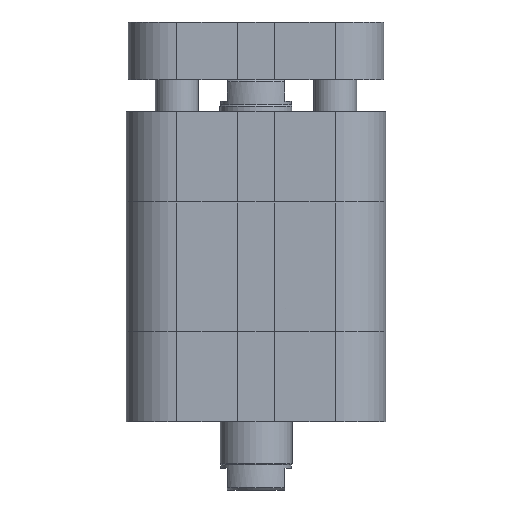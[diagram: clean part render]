
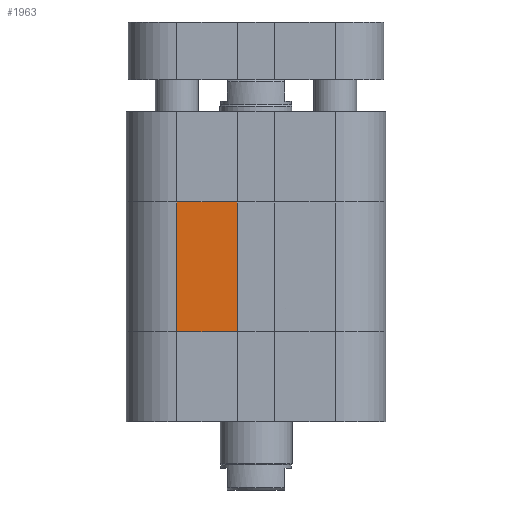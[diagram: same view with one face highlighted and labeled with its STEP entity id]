
A CAD part, front view. The second image highlights one B-rep face of the part: STEP entity #1963.
In plain terms, the highlighted planar face has unit normal (0, -1, 0).
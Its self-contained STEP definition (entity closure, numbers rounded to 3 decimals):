
#1874=CARTESIAN_POINT('',(-11.0,-18.,12.5));
#1875=VERTEX_POINT('',#1874);
#1883=CARTESIAN_POINT('',(-11.0,-18.,30.5));
#1884=VERTEX_POINT('',#1883);
#1885=CARTESIAN_POINT('',(-11.0,-18.,12.5));
#1886=DIRECTION('',(0.0,0.0,1.0));
#1887=VECTOR('',#1886,18.);
#1888=LINE('',#1885,#1887);
#1889=EDGE_CURVE('',#1875,#1884,#1888,.T.);
#1933=CARTESIAN_POINT('',(-2.6,-18.0,0.0));
#1934=DIRECTION('',(0.0,-1.0,0.0));
#1935=DIRECTION('',(0.0,0.0,-1.0));
#1936=AXIS2_PLACEMENT_3D('',#1933,#1934,#1935);
#1937=PLANE('',#1936);
#1938=CARTESIAN_POINT('',(-2.6,-18.0,12.5));
#1939=VERTEX_POINT('',#1938);
#1940=CARTESIAN_POINT('',(-11.0,-18.,12.5));
#1941=DIRECTION('',(1.0,0.0,0.0));
#1942=VECTOR('',#1941,8.4);
#1943=LINE('',#1940,#1942);
#1944=EDGE_CURVE('',#1875,#1939,#1943,.T.);
#1945=ORIENTED_EDGE('',*,*,#1944,.T.);
#1946=CARTESIAN_POINT('',(-2.6,-18.0,30.5));
#1947=VERTEX_POINT('',#1946);
#1948=CARTESIAN_POINT('',(-2.6,-18.0,12.5));
#1949=DIRECTION('',(0.0,0.0,1.0));
#1950=VECTOR('',#1949,18.);
#1951=LINE('',#1948,#1950);
#1952=EDGE_CURVE('',#1939,#1947,#1951,.T.);
#1953=ORIENTED_EDGE('',*,*,#1952,.T.);
#1954=CARTESIAN_POINT('',(-11.0,-18.,30.5));
#1955=DIRECTION('',(1.0,0.0,0.0));
#1956=VECTOR('',#1955,8.4);
#1957=LINE('',#1954,#1956);
#1958=EDGE_CURVE('',#1884,#1947,#1957,.T.);
#1959=ORIENTED_EDGE('',*,*,#1958,.F.);
#1960=ORIENTED_EDGE('',*,*,#1889,.F.);
#1961=EDGE_LOOP('',(#1945,#1953,#1959,#1960));
#1962=FACE_OUTER_BOUND('',#1961,.T.);
#1963=ADVANCED_FACE('',(#1962),#1937,.T.);
